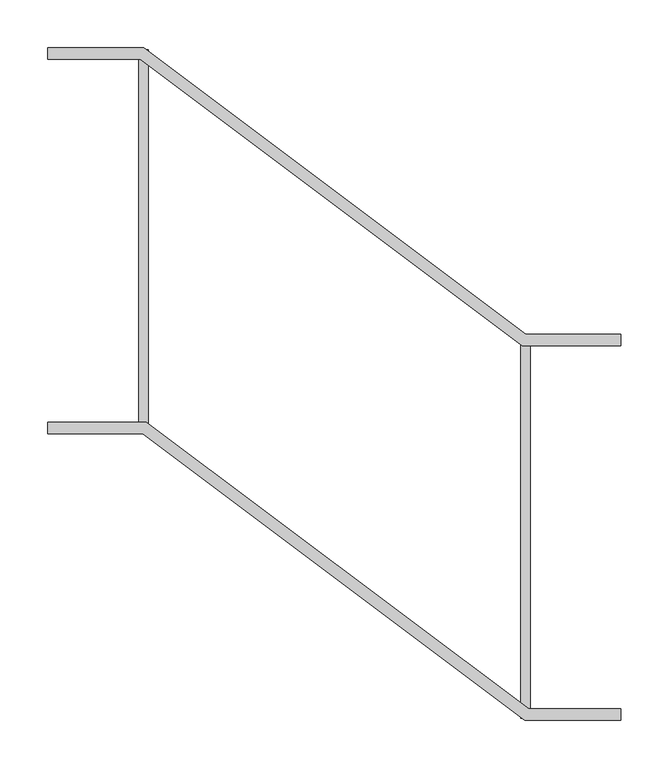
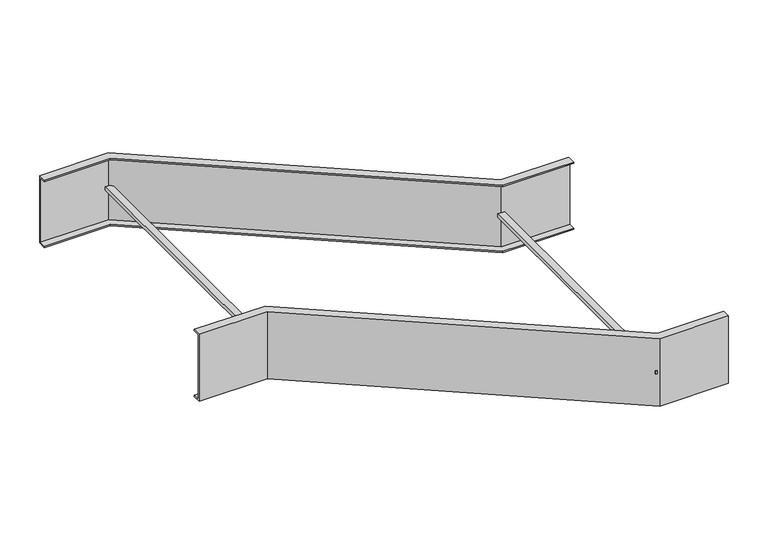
"""IFC4 building model written with IfcOpenShell, lengths in millimetres: cable carrier fitting geometry, BAKS_LDLS_CONN_Univarsal connector offset_LUS : LUS_H100."""

from ifc_helpers import new_model, si_unit, frame, origin, place, context, project, spatial, polyline, outline, extrude, faceted_brep, source, transform, mapped, element, save


def cable_carrier_fitting_c717f408(model_context):
    return source(origin(), model_context, "Body", "SolidModel", [
        extrude(outline(polyline([(25.0, 200.0), (35.0, 200.0), (35.0, -200.0), (25.0, -200.0), (25.0, 200.0)])), frame((0.0, 0.0, -2.5), z_axis=(0.0, 0.0, 1.0), x_axis=(1.0, 0.0, 0.0)), (0.0, 0.0, 1.0), 5.0),
        extrude(outline(polyline([(435.0, -500.0), (425.0, -500.0), (425.0, -100.0), (435.0, -100.0), (435.0, -500.0)])), frame((0.0, 0.0, -2.5), z_axis=(0.0, 0.0, 1.0), x_axis=(1.0, 0.0, 0.0)), (0.0, 0.0, 1.0), 5.0),
        faceted_brep([(-70.0, -190.0, 52.0), (-70.0, -190.0, 50.0), (-70.0, -200.0, 50.0), (-70.0, -200.0, -50.0), (-70.0, -190.0, -50.0), (-70.0, -190.0, -52.0), (-70.0, -202.0, -52.0), (-70.0, -202.0, 52.0), (33.3333333, -190.0, 52.0), (33.3333333, -190.0, 50.0), (433.3333333, -490.0, 50.0), (530.0, -490.0, 50.0), (530.0, -500.0, 50.0), (430.0, -500.0, 50.0), (30.0, -200.0, 50.0), (30.0, -200.0, -50.0), (430.0, -500.0, -50.0), (530.0, -500.0, -50.0), (530.0, -490.0, -50.0), (433.3333333, -490.0, -50.0), (33.3333333, -190.0, -50.0), (33.3333333, -190.0, -52.0), (433.3333333, -490.0, -52.0), (530.0, -490.0, -52.0), (530.0, -502.0, -52.0), (429.3333333, -502.0, -52.0), (29.3333333, -202.0, -52.0), (29.3333333, -202.0, 52.0), (429.3333333, -502.0, 52.0), (530.0, -502.0, 52.0), (530.0, -490.0, 52.0), (433.3333333, -490.0, 52.0)], [[[0, 1, 2, 3, 4, 5, 6, 7]], [[1, 0, 8, 9]], [[2, 1, 9, 10, 11, 12, 13, 14]], [[3, 2, 14, 15]], [[4, 3, 15, 16, 17, 18, 19, 20]], [[5, 4, 20, 21]], [[6, 5, 21, 22, 23, 24, 25, 26]], [[7, 6, 26, 27]], [[0, 7, 27, 28, 29, 30, 31, 8]], [[9, 8, 31, 10]], [[15, 14, 13, 16]], [[21, 20, 19, 22]], [[27, 26, 25, 28]], [[30, 29, 24, 23, 18, 17, 12, 11]], [[10, 31, 30, 11]], [[16, 13, 12, 17]], [[22, 19, 18, 23]], [[28, 25, 24, 29]]]),
        faceted_brep([(530.0, -110.0, 52.0), (530.0, -110.0, 50.0), (530.0, -100.0, 50.0), (530.0, -100.0, -50.0), (530.0, -110.0, -50.0), (530.0, -110.0, -52.0), (530.0, -98.0, -52.0), (530.0, -98.0, 52.0), (426.6666667, -110.0, 52.0), (426.6666667, -110.0, 50.0), (26.6666667, 190.0, 50.0), (-70.0, 190.0, 50.0), (-70.0, 200.0, 50.0), (30.0, 200.0, 50.0), (430.0, -100.0, 50.0), (430.0, -100.0, -50.0), (30.0, 200.0, -50.0), (-70.0, 200.0, -50.0), (-70.0, 190.0, -50.0), (26.6666667, 190.0, -50.0), (426.6666667, -110.0, -50.0), (426.6666667, -110.0, -52.0), (26.6666667, 190.0, -52.0), (-70.0, 190.0, -52.0), (-70.0, 202.0, -52.0), (30.6666667, 202.0, -52.0), (430.6666667, -98.0, -52.0), (430.6666667, -98.0, 52.0), (30.6666667, 202.0, 52.0), (-70.0, 202.0, 52.0), (-70.0, 190.0, 52.0), (26.6666667, 190.0, 52.0)], [[[0, 1, 2, 3, 4, 5, 6, 7]], [[1, 0, 8, 9]], [[2, 1, 9, 10, 11, 12, 13, 14]], [[3, 2, 14, 15]], [[4, 3, 15, 16, 17, 18, 19, 20]], [[5, 4, 20, 21]], [[6, 5, 21, 22, 23, 24, 25, 26]], [[7, 6, 26, 27]], [[0, 7, 27, 28, 29, 30, 31, 8]], [[9, 8, 31, 10]], [[15, 14, 13, 16]], [[21, 20, 19, 22]], [[27, 26, 25, 28]], [[30, 29, 24, 23, 18, 17, 12, 11]], [[10, 31, 30, 11]], [[16, 13, 12, 17]], [[22, 19, 18, 23]], [[28, 25, 24, 29]]]),
    ])


if __name__ == "__main__":
    model = new_model("IFC4")
    model_context = context("Model", 3, world=origin())
    ifc_project = project(units=[si_unit("LENGTHUNIT", "METRE", prefix="MILLI")], contexts=[model_context])
    site = spatial("IfcSite", under=ifc_project)
    building = spatial("IfcBuilding", under=site)
    placement = place(None, origin())
    cable_carrier_fitting_shape = cable_carrier_fitting_c717f408(model_context)
    element("IfcCableCarrierFitting", 1, ObjectType="BAKS_LDLS_CONN_Univarsal connector offset_LUS : LUS_H100", at=placement, inside=building, context=model_context, shape_type="MappedRepresentation", body=[
        mapped(cable_carrier_fitting_shape, transform((0.0, 0.0, 0.0), x_axis=(1.0, 0.0, 0.0), y_axis=(0.0, 1.0, 0.0), z_axis=(0.0, 0.0, 1.0))),
    ])
    save(model, "model.ifc")
